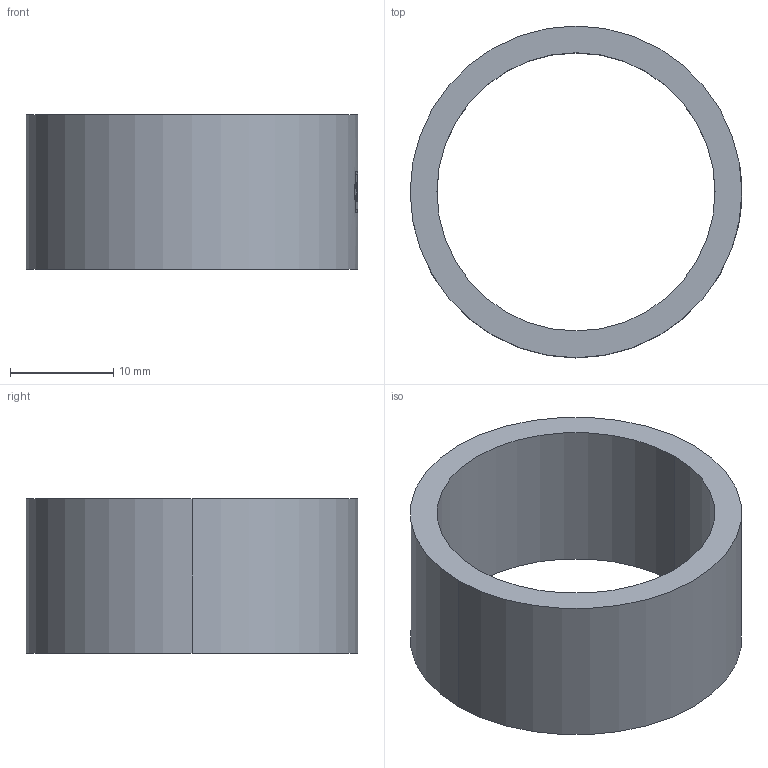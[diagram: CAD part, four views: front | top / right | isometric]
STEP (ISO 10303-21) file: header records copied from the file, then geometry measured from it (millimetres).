
FILE_DESCRIPTION (( 'STEP AP203' ), '1' );
FILE_NAME ('WJ-DM 40.STEP', '2007-02-21T09:23:43', ( ' ' ), ( '' ), 'SwSTEP 2.0', 'SolidWorks 2005278', '' );
FILE_SCHEMA (( 'CONFIG_CONTROL_DESIGN' ));
Length unit declared in the file: millimetre
Products named in the file (1): WJ-DM 40
Bounding box: 32.2 x 32.2 x 15 mm (x, y, z)
Volume: 3626.3 mm3; surface area: 3274.4 mm2
Topology: 1 solids, 1 shells, 43 faces, 117 edges, 78 vertices
Faces by surface type: plane 36, cylinder 7
Entity records: 1468 total; most frequent: CARTESIAN_POINT 299, ORIENTED_EDGE 234, DIRECTION 221, EDGE_CURVE 117, AXIS2_PLACEMENT_3D 80, VERTEX_POINT 78, VECTOR 61, LINE 61
